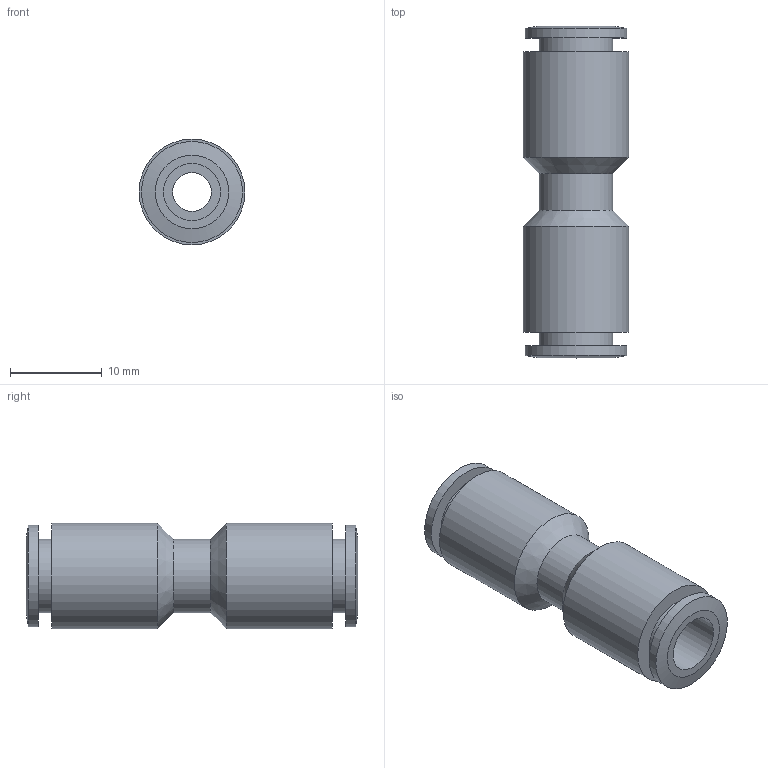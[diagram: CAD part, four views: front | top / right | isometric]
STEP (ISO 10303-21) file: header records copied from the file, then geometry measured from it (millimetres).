
FILE_DESCRIPTION((''),'2;1');
FILE_NAME('C:\Documents and Settings\rivolro1\Documenti\copia di Raccordi\PLASTICA\T03XX00\T030600.stp','2007-10-30T15:28:54',('Rivolro1'),(''),'Autodesk Inventor 2008','Autodesk Inventor 2008','');
FILE_SCHEMA(('AUTOMOTIVE_DESIGN { 1 0 10303 214 1 1 1 1 }'));
Length unit declared in the file: millimetre
Products named in the file (1): T030600
Bounding box: 11.5 x 36.1 x 11.5 mm (x, y, z)
Volume: 2219.9 mm3; surface area: 2266.5 mm2
Topology: 1 solids, 1 shells, 22 faces, 37 edges, 23 vertices
Faces by surface type: cylinder 8, plane 6, bspline 4, cone 4
Full cylindrical faces by diameter (mm): 4.2 x1, 8 x3, 11 x2, 11.5 x2
Entity records: 523 total; most frequent: CARTESIAN_POINT 107, DIRECTION 82, ORIENTED_EDGE 44, EDGE_LOOP 44, AXIS2_PLACEMENT_3D 41, VERTEX_POINT 22, CIRCLE 22, EDGE_CURVE 22
